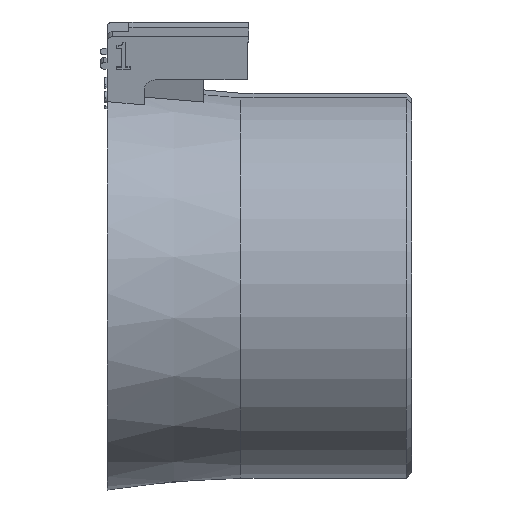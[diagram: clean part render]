
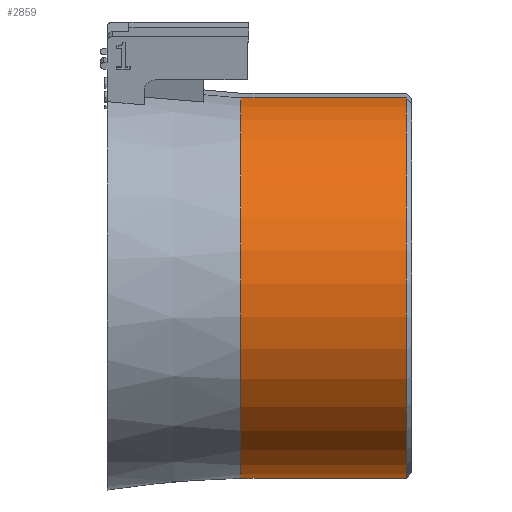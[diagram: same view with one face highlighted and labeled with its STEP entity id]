
A CAD part, front view. The second image highlights one B-rep face of the part: STEP entity #2859.
In plain terms, the highlighted cylindrical face has radius 17.5 mm (diameter 35 mm), a partial arc.
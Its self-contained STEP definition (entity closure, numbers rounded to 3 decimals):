
#49=CYLINDRICAL_SURFACE('',#3027,17.5);
#85=CIRCLE('',#3028,17.5);
#86=CIRCLE('',#3029,17.5);
#403=FACE_OUTER_BOUND('',#564,.T.);
#564=EDGE_LOOP('',(#2480,#2481,#2482,#2483));
#814=LINE('',#4828,#1085);
#832=LINE('',#4868,#1103);
#1085=VECTOR('',#3507,10.);
#1103=VECTOR('',#3535,10.);
#1437=VERTEX_POINT('',#4825);
#1438=VERTEX_POINT('',#4827);
#1454=VERTEX_POINT('',#4866);
#1455=VERTEX_POINT('',#4867);
#1800=EDGE_CURVE('',#1438,#1437,#814,.T.);
#1820=EDGE_CURVE('',#1454,#1455,#832,.T.);
#1821=EDGE_CURVE('',#1438,#1454,#85,.T.);
#1822=EDGE_CURVE('',#1455,#1437,#86,.T.);
#2480=ORIENTED_EDGE('',*,*,#1820,.F.);
#2481=ORIENTED_EDGE('',*,*,#1821,.F.);
#2482=ORIENTED_EDGE('',*,*,#1800,.T.);
#2483=ORIENTED_EDGE('',*,*,#1822,.F.);
#2859=ADVANCED_FACE('',(#403),#49,.T.);
#3027=AXIS2_PLACEMENT_3D('',#4865,#3533,#3534);
#3028=AXIS2_PLACEMENT_3D('',#4869,#3536,#3537);
#3029=AXIS2_PLACEMENT_3D('',#4870,#3538,#3539);
#3507=DIRECTION('',(-1.,0.,0.));
#3533=DIRECTION('center_axis',(-1.,0.,0.));
#3534=DIRECTION('ref_axis',(0.,-0.985,-0.174));
#3535=DIRECTION('',(-1.,0.,0.));
#3536=DIRECTION('center_axis',(1.,0.,0.));
#3537=DIRECTION('ref_axis',(0.,0.985,0.174));
#3538=DIRECTION('center_axis',(-1.,0.,0.));
#3539=DIRECTION('ref_axis',(0.,-0.985,-0.174));
#4825=CARTESIAN_POINT('',(11.43,-5.018,17.061));
#4827=CARTESIAN_POINT('',(26.5,-5.018,17.061));
#4828=CARTESIAN_POINT('',(19.215,-5.018,17.061));
#4865=CARTESIAN_POINT('Origin',(19.215,-1.98,-0.173));
#4866=CARTESIAN_POINT('',(26.5,0.533,-17.492));
#4867=CARTESIAN_POINT('',(11.43,0.533,-17.492));
#4868=CARTESIAN_POINT('',(19.215,0.533,-17.492));
#4869=CARTESIAN_POINT('Origin',(26.5,-1.98,-0.173));
#4870=CARTESIAN_POINT('Origin',(11.43,-1.98,-0.173));
